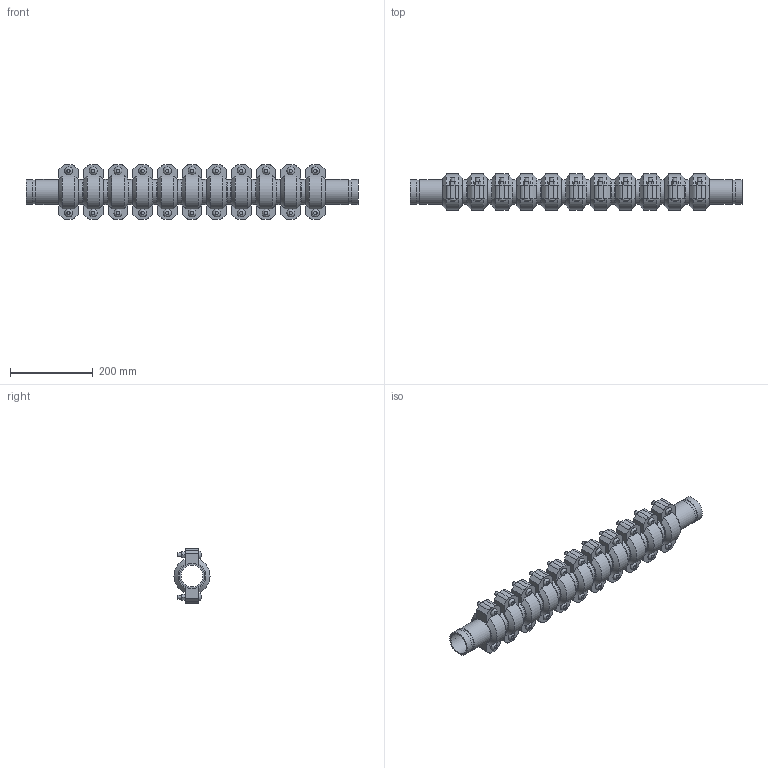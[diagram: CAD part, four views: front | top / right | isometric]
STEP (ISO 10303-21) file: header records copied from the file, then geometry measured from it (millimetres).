
FILE_DESCRIPTION(/* description */ ('VIC SS EXPANSION JOINT 11COUPLINGS NEUTRAL STYLE 155P (OGS) (POTABLE WATER) ','CAx-IF Rec.Pracs.---Representation and Presentation of Product Manufacturing Information (PMI)---4.0---2014-10-13'),/* implementation_level */ '2;1');
FILE_NAME(/* name */ 'C:\Users\kkamble\AppData\Roaming\Autodesk\ApplicationPlugins\Victaulic.Temp\A19\Victaulic_SS_Expansion Joint_Neutral_11 Couplings_Style 155P (OGS)-Potable Water_11 Coup_Neut_2 (50).stp',/* time_stamp */ '2021-07-16T16:28:18+06:00',/* author */ ('kkamble'),/* organization */ ('Victaulic'),/* preprocessor_version */ 'ST-DEVELOPER v17.2',/* originating_system */ 'Autodesk Inventor 2019',/* authorisation */ '');
FILE_SCHEMA (('AP242_MANAGED_MODEL_BASED_3D_ENGINEERING_MIM_LF { 1 0 10303 442 1 1 4 }'));
Length unit declared in the file: inch
Products named in the file (4): 155P-02.0; Nipple-02.0; Nipple-02.0_1; 075-02.0
Assembly tree (23 placements, depth 2):
  155P-02.0
    Nipple-02.0  x2
    Nipple-02.0_1  x10
    075-02.0  x11
Bounding box: 801.12 x 87.12 x 132.59 mm (x, y, z)
Volume: 2690589.1 mm3; surface area: 741556.3 mm2
Topology: 23 solids, 45 shells, 771 faces, 1823 edges, 1278 vertices
Faces by surface type: plane 468, cylinder 237, cone 44, bspline 22
Full cylindrical faces by diameter (mm): 9.525 x44, 11.43 x22, 52.502 x12, 53.975 x11, 57.15 x24, 60.325 x58
Entity records: 2897 total; most frequent: CARTESIAN_POINT 507, DIRECTION 489, ORIENTED_EDGE 386, AXIS2_PLACEMENT_3D 198, EDGE_CURVE 193, VERTEX_POINT 138, EDGE_LOOP 107, LINE 93
